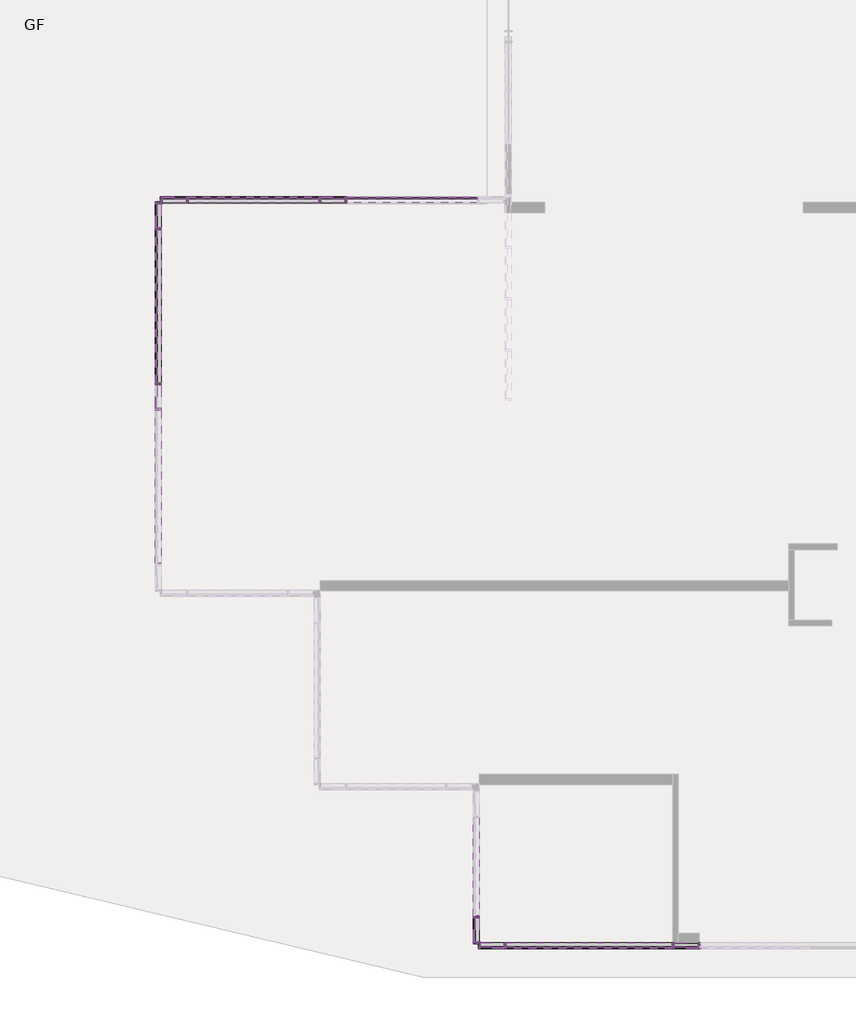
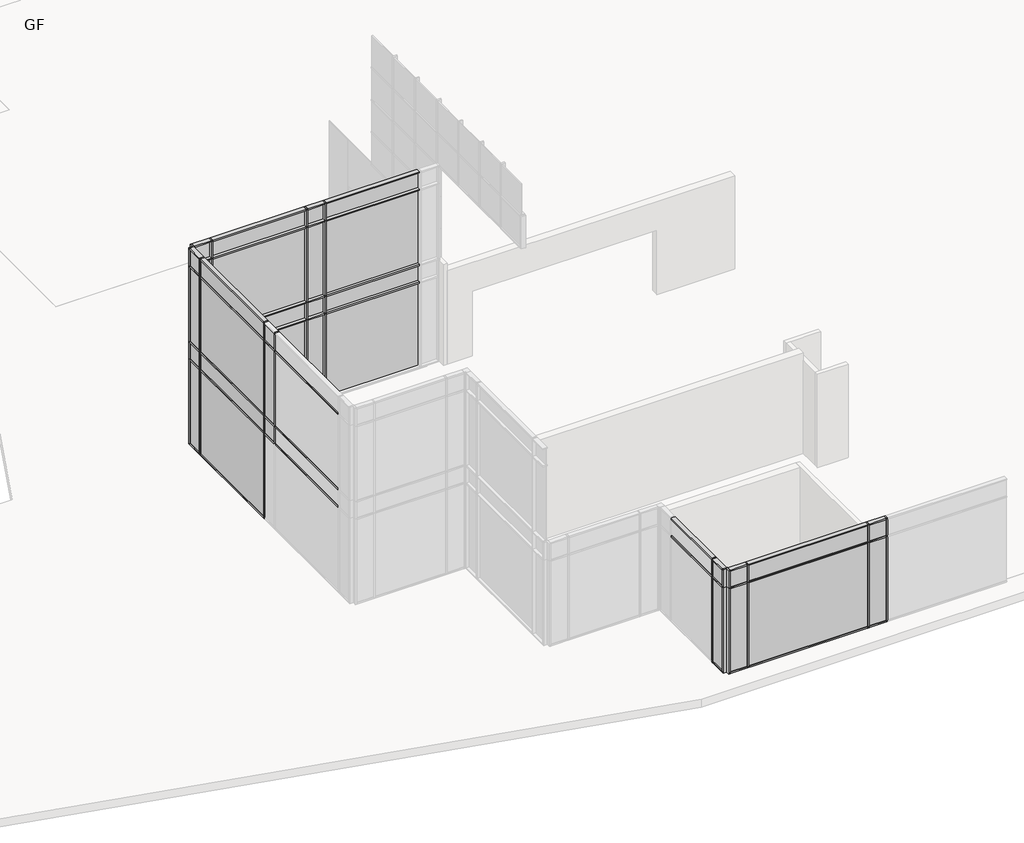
# One storey, part 2 of 23: 86 members, 35 plates.
"""IFC4 building model written with IfcOpenShell, lengths in millimetres."""

from ifc_helpers import new_model, si_unit, origin, place, context, project, spatial, transform, mapped, element, save
from components import rectangular_mullion_50_x_150mm_68b3818a, rectangular_mullion_50_x_150mm_64d38db8, rectangular_mullion_50_x_150mm_b34d1ea9, rectangular_mullion_50_x_150mm_0240cd64, rectangular_mullion_50_x_150mm_e0b7c4f8, rectangular_mullion_50_x_150mm_d11e3bb4, rectangular_mullion_50_x_150mm_7d543e93, rectangular_mullion_50_x_150mm_9e0f1e24, rectangular_mullion_50_x_150mm_4f882940, rectangular_mullion_50_x_150mm_edc7ebc1, rectangular_mullion_50_x_150mm_eae7d4bc, rectangular_mullion_50_x_150mm_8786dd09, rectangular_mullion_50_x_150mm_73a7075e, rectangular_mullion_50_x_150mm_567a4a66, v_corner_mullion_v_mullion_1_f045c5c2, v_corner_mullion_v_mullion_1_1f1fc5c4, v_corner_mullion_v_mullion_1_7bbb4fbd, v_corner_mullion_v_mullion_1_ba732962, system_panel_glazed_24812111, system_panel_glazed_e5239730, system_panel_glazed_6ff5b55b, system_panel_glazed_93ed122c, system_panel_glazed_8999bfa8, system_panel_glazed_2828cf0c, system_panel_glazed_a7232eb8, system_panel_glazed_7da84705, system_panel_glazed_2ee935f9, system_panel_glazed_bcfc8d05, system_panel_glazed_5b8ccad9, system_panel_glazed_a16f1b96, system_panel_glazed_8fdd871a, system_panel_glazed_dc0bbc31

model = new_model("IFC4")

# Units and contexts
model_context = context("Model", 3, world=origin())
ifc_project = project(units=[si_unit("LENGTHUNIT", "METRE", prefix="MILLI")], contexts=[model_context])

# Site, building, storey
site = spatial("IfcSite", under=ifc_project)
building = spatial("IfcBuilding", under=site)
storey = spatial("IfcBuildingStorey", under=building, Name="GF", Elevation=900.0)

# Members
placement = place(None, origin())
rectangular_mullion_50_x_150mm_shape = rectangular_mullion_50_x_150mm_68b3818a(model_context)
element("IfcMember", 1, ObjectType="Rectangular Mullion : 50 x 150mm", at=placement, inside=storey, context=model_context, shape_type="MappedRepresentation", body=[
    mapped(rectangular_mullion_50_x_150mm_shape, transform((-31612.5865899, -25072.6148653, 4075.0), x_axis=(0.0, 0.0, 1.0), y_axis=(-1.0, 0.0, 0.0), z_axis=(0.0, -1.0, 0.0))),
])
element("IfcMember", 2, ObjectType="Rectangular Mullion : 50 x 150mm", at=placement, inside=storey, context=model_context, shape_type="MappedRepresentation", body=[
    mapped(rectangular_mullion_50_x_150mm_shape, transform((-35525.0865899, -6397.6148653, 7525.0), x_axis=(0.0, 0.0, 1.0), y_axis=(0.0, 1.0, 0.0), z_axis=(-1.0, 0.0, 0.0))),
])
element("IfcMember", 3, ObjectType="Rectangular Mullion : 50 x 150mm", at=placement, inside=storey, context=model_context, shape_type="MappedRepresentation", body=[
    mapped(rectangular_mullion_50_x_150mm_shape, transform((-39512.5865899, -6397.6148653, 7525.0), x_axis=(0.0, 0.0, 1.0), y_axis=(0.0, 1.0, 0.0), z_axis=(-1.0, 0.0, 0.0))),
])
element("IfcMember", 4, ObjectType="Rectangular Mullion : 50 x 150mm", at=placement, inside=storey, context=model_context, shape_type="MappedRepresentation", body=[
    mapped(rectangular_mullion_50_x_150mm_shape, transform((-35525.0865899, -6397.6148653, 4075.0), x_axis=(0.0, 0.0, 1.0), y_axis=(0.0, 1.0, 0.0), z_axis=(-1.0, 0.0, 0.0))),
])
element("IfcMember", 5, ObjectType="Rectangular Mullion : 50 x 150mm", at=placement, inside=storey, context=model_context, shape_type="MappedRepresentation", body=[
    mapped(rectangular_mullion_50_x_150mm_shape, transform((-39512.5865899, -6397.6148653, 4075.0), x_axis=(0.0, 0.0, 1.0), y_axis=(0.0, 1.0, 0.0), z_axis=(-1.0, 0.0, 0.0))),
])
element("IfcMember", 6, ObjectType="Rectangular Mullion : 50 x 150mm", at=placement, inside=storey, context=model_context, shape_type="MappedRepresentation", body=[
    mapped(rectangular_mullion_50_x_150mm_shape, transform((-35525.0865899, -6397.6148653, 4725.0), x_axis=(0.0, 0.0, 1.0), y_axis=(0.0, 1.0, 0.0), z_axis=(-1.0, 0.0, 0.0))),
])
element("IfcMember", 7, ObjectType="Rectangular Mullion : 50 x 150mm", at=placement, inside=storey, context=model_context, shape_type="MappedRepresentation", body=[
    mapped(rectangular_mullion_50_x_150mm_shape, transform((-39512.5865899, -6397.6148653, 4725.0), x_axis=(0.0, 0.0, 1.0), y_axis=(0.0, 1.0, 0.0), z_axis=(-1.0, 0.0, 0.0))),
])
element("IfcMember", 8, ObjectType="Rectangular Mullion : 50 x 150mm", at=placement, inside=storey, context=model_context, shape_type="MappedRepresentation", body=[
    mapped(rectangular_mullion_50_x_150mm_shape, transform((-39612.5865899, -11047.6148653, 7525.0), x_axis=(0.0, 0.0, 1.0), y_axis=(1.0, 0.0, 0.0), z_axis=(0.0, 1.0, 0.0))),
])
element("IfcMember", 9, ObjectType="Rectangular Mullion : 50 x 150mm", at=placement, inside=storey, context=model_context, shape_type="MappedRepresentation", body=[
    mapped(rectangular_mullion_50_x_150mm_shape, transform((-39612.5865899, -6497.6148653, 7525.0), x_axis=(0.0, 0.0, 1.0), y_axis=(1.0, 0.0, 0.0), z_axis=(0.0, 1.0, 0.0))),
])
element("IfcMember", 10, ObjectType="Rectangular Mullion : 50 x 150mm", at=placement, inside=storey, context=model_context, shape_type="MappedRepresentation", body=[
    mapped(rectangular_mullion_50_x_150mm_shape, transform((-39612.5865899, -11047.6148653, 4725.0), x_axis=(0.0, 0.0, 1.0), y_axis=(1.0, 0.0, 0.0), z_axis=(0.0, 1.0, 0.0))),
])
element("IfcMember", 11, ObjectType="Rectangular Mullion : 50 x 150mm", at=placement, inside=storey, context=model_context, shape_type="MappedRepresentation", body=[
    mapped(rectangular_mullion_50_x_150mm_shape, transform((-39612.5865899, -6497.6148653, 4725.0), x_axis=(0.0, 0.0, 1.0), y_axis=(1.0, 0.0, 0.0), z_axis=(0.0, 1.0, 0.0))),
])
element("IfcMember", 12, ObjectType="Rectangular Mullion : 50 x 150mm", at=placement, inside=storey, context=model_context, shape_type="MappedRepresentation", body=[
    mapped(rectangular_mullion_50_x_150mm_shape, transform((-39612.5865899, -11047.6148653, 4075.0), x_axis=(0.0, 0.0, 1.0), y_axis=(1.0, 0.0, 0.0), z_axis=(0.0, 1.0, 0.0))),
])
element("IfcMember", 13, ObjectType="Rectangular Mullion : 50 x 150mm", at=placement, inside=storey, context=model_context, shape_type="MappedRepresentation", body=[
    mapped(rectangular_mullion_50_x_150mm_shape, transform((-39612.5865899, -6497.6148653, 4075.0), x_axis=(0.0, 0.0, 1.0), y_axis=(1.0, 0.0, 0.0), z_axis=(0.0, 1.0, 0.0))),
])
element("IfcMember", 14, ObjectType="Rectangular Mullion : 50 x 150mm", at=placement, inside=storey, context=model_context, shape_type="MappedRepresentation", body=[
    mapped(rectangular_mullion_50_x_150mm_shape, transform((-26627.5865899, -25172.6148653, 4075.0), x_axis=(0.0, 0.0, 1.0), y_axis=(0.0, 1.0, 0.0), z_axis=(-1.0, 0.0, 0.0))),
])
element("IfcMember", 15, ObjectType="Rectangular Mullion : 50 x 150mm", at=placement, inside=storey, context=model_context, shape_type="MappedRepresentation", body=[
    mapped(rectangular_mullion_50_x_150mm_shape, transform((-31512.5865899, -25172.6148653, 4075.0), x_axis=(0.0, 0.0, 1.0), y_axis=(0.0, 1.0, 0.0), z_axis=(-1.0, 0.0, 0.0))),
])
rectangular_mullion_50_x_150mm_2_shape = rectangular_mullion_50_x_150mm_64d38db8(model_context)
element("IfcMember", 16, ObjectType="Rectangular Mullion : 50 x 150mm", at=placement, inside=storey, context=model_context, shape_type="MappedRepresentation", body=[
    mapped(rectangular_mullion_50_x_150mm_2_shape, transform((-31512.5865899, -25172.6148653, 4750.0), x_axis=(0.0, 0.0, 1.0), y_axis=(0.0, 1.0, 0.0), z_axis=(-1.0, 0.0, 0.0))),
])
element("IfcMember", 17, ObjectType="Rectangular Mullion : 50 x 150mm", at=placement, inside=storey, context=model_context, shape_type="MappedRepresentation", body=[
    mapped(rectangular_mullion_50_x_150mm_2_shape, transform((-39612.5865899, -6497.6148653, 8200.0), x_axis=(0.0, 0.0, 1.0), y_axis=(1.0, 0.0, 0.0), z_axis=(0.0, 1.0, 0.0))),
])
element("IfcMember", 18, ObjectType="Rectangular Mullion : 50 x 150mm", at=placement, inside=storey, context=model_context, shape_type="MappedRepresentation", body=[
    mapped(rectangular_mullion_50_x_150mm_2_shape, transform((-26627.5865899, -25172.6148653, 4750.0), x_axis=(0.0, 0.0, 1.0), y_axis=(0.0, 1.0, 0.0), z_axis=(-1.0, 0.0, 0.0))),
])
element("IfcMember", 19, ObjectType="Rectangular Mullion : 50 x 150mm", at=placement, inside=storey, context=model_context, shape_type="MappedRepresentation", body=[
    mapped(rectangular_mullion_50_x_150mm_2_shape, transform((-30912.5865899, -25172.6148653, 900.0), x_axis=(0.0, 0.0, -1.0), y_axis=(0.0, 1.0, 0.0), z_axis=(1.0, 0.0, 0.0))),
])
element("IfcMember", 20, ObjectType="Rectangular Mullion : 50 x 150mm", at=placement, inside=storey, context=model_context, shape_type="MappedRepresentation", body=[
    mapped(rectangular_mullion_50_x_150mm_2_shape, transform((-26027.5865899, -25172.6148653, 900.0), x_axis=(0.0, 0.0, -1.0), y_axis=(0.0, 1.0, 0.0), z_axis=(1.0, 0.0, 0.0))),
])
element("IfcMember", 21, ObjectType="Rectangular Mullion : 50 x 150mm", at=placement, inside=storey, context=model_context, shape_type="MappedRepresentation", body=[
    mapped(rectangular_mullion_50_x_150mm_2_shape, transform((-39612.5865899, -7097.6148653, 900.0), x_axis=(0.0, 0.0, -1.0), y_axis=(1.0, 0.0, 0.0), z_axis=(0.0, -1.0, 0.0))),
])
rectangular_mullion_50_x_150mm_3_shape = rectangular_mullion_50_x_150mm_b34d1ea9(model_context)
element("IfcMember", 22, ObjectType="Rectangular Mullion : 50 x 150mm", at=placement, inside=storey, context=model_context, shape_type="MappedRepresentation", body=[
    mapped(rectangular_mullion_50_x_150mm_3_shape, transform((-30862.5865899, -25172.6148653, 4750.0), x_axis=(0.0, 0.0, 1.0), y_axis=(0.0, 1.0, 0.0), z_axis=(-1.0, 0.0, 0.0))),
])
element("IfcMember", 23, ObjectType="Rectangular Mullion : 50 x 150mm", at=placement, inside=storey, context=model_context, shape_type="MappedRepresentation", body=[
    mapped(rectangular_mullion_50_x_150mm_3_shape, transform((-26677.5865899, -25172.6148653, 900.0), x_axis=(0.0, 0.0, -1.0), y_axis=(0.0, 1.0, 0.0), z_axis=(1.0, 0.0, 0.0))),
])
element("IfcMember", 24, ObjectType="Rectangular Mullion : 50 x 150mm", at=placement, inside=storey, context=model_context, shape_type="MappedRepresentation", body=[
    mapped(rectangular_mullion_50_x_150mm_2_shape, transform((-31612.5865899, -25072.6148653, 4750.0), x_axis=(0.0, 0.0, 1.0), y_axis=(-1.0, 0.0, 0.0), z_axis=(0.0, -1.0, 0.0))),
])
element("IfcMember", 25, ObjectType="Rectangular Mullion : 50 x 150mm", at=placement, inside=storey, context=model_context, shape_type="MappedRepresentation", body=[
    mapped(rectangular_mullion_50_x_150mm_2_shape, transform((-39512.5865899, -6397.6148653, 8200.0), x_axis=(0.0, 0.0, 1.0), y_axis=(0.0, 1.0, 0.0), z_axis=(-1.0, 0.0, 0.0))),
])
element("IfcMember", 26, ObjectType="Rectangular Mullion : 50 x 150mm", at=placement, inside=storey, context=model_context, shape_type="MappedRepresentation", body=[
    mapped(rectangular_mullion_50_x_150mm_2_shape, transform((-35525.0865899, -6397.6148653, 8200.0), x_axis=(0.0, 0.0, 1.0), y_axis=(0.0, 1.0, 0.0), z_axis=(-1.0, 0.0, 0.0))),
])
element("IfcMember", 27, ObjectType="Rectangular Mullion : 50 x 150mm", at=placement, inside=storey, context=model_context, shape_type="MappedRepresentation", body=[
    mapped(rectangular_mullion_50_x_150mm_2_shape, transform((-31612.5865899, -24472.6148653, 900.0), x_axis=(0.0, 0.0, -1.0), y_axis=(-1.0, 0.0, 0.0), z_axis=(0.0, 1.0, 0.0))),
])
element("IfcMember", 28, ObjectType="Rectangular Mullion : 50 x 150mm", at=placement, inside=storey, context=model_context, shape_type="MappedRepresentation", body=[
    mapped(rectangular_mullion_50_x_150mm_2_shape, transform((-38912.5865899, -6397.6148653, 900.0), x_axis=(0.0, 0.0, -1.0), y_axis=(0.0, 1.0, 0.0), z_axis=(1.0, 0.0, 0.0))),
])
element("IfcMember", 29, ObjectType="Rectangular Mullion : 50 x 150mm", at=placement, inside=storey, context=model_context, shape_type="MappedRepresentation", body=[
    mapped(rectangular_mullion_50_x_150mm_2_shape, transform((-34925.0865899, -6397.6148653, 900.0), x_axis=(0.0, 0.0, -1.0), y_axis=(0.0, 1.0, 0.0), z_axis=(1.0, 0.0, 0.0))),
])
rectangular_mullion_50_x_150mm_4_shape = rectangular_mullion_50_x_150mm_0240cd64(model_context)
element("IfcMember", 30, ObjectType="Rectangular Mullion : 50 x 150mm", at=placement, inside=storey, context=model_context, shape_type="MappedRepresentation", body=[
    mapped(rectangular_mullion_50_x_150mm_4_shape, transform((-31612.5865899, -24422.6148653, 4750.0), x_axis=(0.0, 0.0, 1.0), y_axis=(-1.0, 0.0, 0.0), z_axis=(0.0, -1.0, 0.0))),
])
rectangular_mullion_50_x_150mm_5_shape = rectangular_mullion_50_x_150mm_e0b7c4f8(model_context)
element("IfcMember", 31, ObjectType="Rectangular Mullion : 50 x 150mm", at=placement, inside=storey, context=model_context, shape_type="MappedRepresentation", body=[
    mapped(rectangular_mullion_50_x_150mm_5_shape, transform((-39612.5865899, -10997.6148653, 900.0), x_axis=(0.0, 0.0, -1.0), y_axis=(1.0, 0.0, 0.0), z_axis=(0.0, -1.0, 0.0))),
])
element("IfcMember", 32, ObjectType="Rectangular Mullion : 50 x 150mm", at=placement, inside=storey, context=model_context, shape_type="MappedRepresentation", body=[
    mapped(rectangular_mullion_50_x_150mm_5_shape, transform((-39612.5865899, -7147.6148653, 8200.0), x_axis=(0.0, 0.0, 1.0), y_axis=(1.0, 0.0, 0.0), z_axis=(0.0, 1.0, 0.0))),
])
rectangular_mullion_50_x_150mm_6_shape = rectangular_mullion_50_x_150mm_d11e3bb4(model_context)
element("IfcMember", 33, ObjectType="Rectangular Mullion : 50 x 150mm", at=placement, inside=storey, context=model_context, shape_type="MappedRepresentation", body=[
    mapped(rectangular_mullion_50_x_150mm_6_shape, transform((-34900.0865899, -6397.6148653, 4725.0), x_axis=(-1.0, 0.0, 0.0), y_axis=(0.0, 1.0, 0.0), z_axis=(0.0, 0.0, -1.0))),
])
element("IfcMember", 34, ObjectType="Rectangular Mullion : 50 x 150mm", at=placement, inside=storey, context=model_context, shape_type="MappedRepresentation", body=[
    mapped(rectangular_mullion_50_x_150mm_6_shape, transform((-35550.0865899, -6397.6148653, 4725.0), x_axis=(-1.0, 0.0, 0.0), y_axis=(0.0, 1.0, 0.0), z_axis=(0.0, 0.0, -1.0))),
])
element("IfcMember", 35, ObjectType="Rectangular Mullion : 50 x 150mm", at=placement, inside=storey, context=model_context, shape_type="MappedRepresentation", body=[
    mapped(rectangular_mullion_50_x_150mm_6_shape, transform((-38887.5865899, -6397.6148653, 4725.0), x_axis=(-1.0, 0.0, 0.0), y_axis=(0.0, 1.0, 0.0), z_axis=(0.0, 0.0, -1.0))),
])
rectangular_mullion_50_x_150mm_7_shape = rectangular_mullion_50_x_150mm_7d543e93(model_context)
element("IfcMember", 36, ObjectType="Rectangular Mullion : 50 x 150mm", at=placement, inside=storey, context=model_context, shape_type="MappedRepresentation", body=[
    mapped(rectangular_mullion_50_x_150mm_7_shape, transform((-34900.0865899, -6397.6148653, 4075.0), x_axis=(-1.0, 0.0, 0.0), y_axis=(0.0, 1.0, 0.0), z_axis=(0.0, 0.0, -1.0))),
])
element("IfcMember", 37, ObjectType="Rectangular Mullion : 50 x 150mm", at=placement, inside=storey, context=model_context, shape_type="MappedRepresentation", body=[
    mapped(rectangular_mullion_50_x_150mm_7_shape, transform((-35550.0865899, -6397.6148653, 4075.0), x_axis=(-1.0, 0.0, 0.0), y_axis=(0.0, 1.0, 0.0), z_axis=(0.0, 0.0, -1.0))),
])
element("IfcMember", 38, ObjectType="Rectangular Mullion : 50 x 150mm", at=placement, inside=storey, context=model_context, shape_type="MappedRepresentation", body=[
    mapped(rectangular_mullion_50_x_150mm_7_shape, transform((-38887.5865899, -6397.6148653, 4075.0), x_axis=(-1.0, 0.0, 0.0), y_axis=(0.0, 1.0, 0.0), z_axis=(0.0, 0.0, -1.0))),
])
rectangular_mullion_50_x_150mm_8_shape = rectangular_mullion_50_x_150mm_9e0f1e24(model_context)
element("IfcMember", 39, ObjectType="Rectangular Mullion : 50 x 150mm", at=placement, inside=storey, context=model_context, shape_type="MappedRepresentation", body=[
    mapped(rectangular_mullion_50_x_150mm_8_shape, transform((-31612.5865899, -24447.6148653, 4075.0), x_axis=(0.0, -1.0, 0.0), y_axis=(-1.0, 0.0, 0.0), z_axis=(0.0, 0.0, -1.0))),
])
element("IfcMember", 40, ObjectType="Rectangular Mullion : 50 x 150mm", at=placement, inside=storey, context=model_context, shape_type="MappedRepresentation", body=[
    mapped(rectangular_mullion_50_x_150mm_8_shape, transform((-34900.0865899, -6397.6148653, 7525.0), x_axis=(-1.0, 0.0, 0.0), y_axis=(0.0, 1.0, 0.0), z_axis=(0.0, 0.0, -1.0))),
])
element("IfcMember", 41, ObjectType="Rectangular Mullion : 50 x 150mm", at=placement, inside=storey, context=model_context, shape_type="MappedRepresentation", body=[
    mapped(rectangular_mullion_50_x_150mm_8_shape, transform((-35550.0865899, -6397.6148653, 7525.0), x_axis=(-1.0, 0.0, 0.0), y_axis=(0.0, 1.0, 0.0), z_axis=(0.0, 0.0, -1.0))),
])
element("IfcMember", 42, ObjectType="Rectangular Mullion : 50 x 150mm", at=placement, inside=storey, context=model_context, shape_type="MappedRepresentation", body=[
    mapped(rectangular_mullion_50_x_150mm_8_shape, transform((-38887.5865899, -6397.6148653, 7525.0), x_axis=(-1.0, 0.0, 0.0), y_axis=(0.0, 1.0, 0.0), z_axis=(0.0, 0.0, -1.0))),
])
rectangular_mullion_50_x_150mm_9_shape = rectangular_mullion_50_x_150mm_4f882940(model_context)
element("IfcMember", 43, ObjectType="Rectangular Mullion : 50 x 150mm", at=placement, inside=storey, context=model_context, shape_type="MappedRepresentation", body=[
    mapped(rectangular_mullion_50_x_150mm_9_shape, transform((-39612.5865899, -11697.6148653, 7525.0), x_axis=(0.0, 0.0, 1.0), y_axis=(1.0, 0.0, 0.0), z_axis=(0.0, 1.0, 0.0))),
])
element("IfcMember", 44, ObjectType="Rectangular Mullion : 50 x 150mm", at=placement, inside=storey, context=model_context, shape_type="MappedRepresentation", body=[
    mapped(rectangular_mullion_50_x_150mm_9_shape, transform((-39612.5865899, -7147.6148653, 7525.0), x_axis=(0.0, 0.0, 1.0), y_axis=(1.0, 0.0, 0.0), z_axis=(0.0, 1.0, 0.0))),
])
element("IfcMember", 45, ObjectType="Rectangular Mullion : 50 x 150mm", at=placement, inside=storey, context=model_context, shape_type="MappedRepresentation", body=[
    mapped(rectangular_mullion_50_x_150mm_9_shape, transform((-39612.5865899, -11697.6148653, 4725.0), x_axis=(0.0, 0.0, 1.0), y_axis=(1.0, 0.0, 0.0), z_axis=(0.0, 1.0, 0.0))),
])
element("IfcMember", 46, ObjectType="Rectangular Mullion : 50 x 150mm", at=placement, inside=storey, context=model_context, shape_type="MappedRepresentation", body=[
    mapped(rectangular_mullion_50_x_150mm_9_shape, transform((-39612.5865899, -7147.6148653, 4725.0), x_axis=(0.0, 0.0, 1.0), y_axis=(1.0, 0.0, 0.0), z_axis=(0.0, 1.0, 0.0))),
])
element("IfcMember", 47, ObjectType="Rectangular Mullion : 50 x 150mm", at=placement, inside=storey, context=model_context, shape_type="MappedRepresentation", body=[
    mapped(rectangular_mullion_50_x_150mm_9_shape, transform((-39612.5865899, -11697.6148653, 4075.0), x_axis=(0.0, 0.0, 1.0), y_axis=(1.0, 0.0, 0.0), z_axis=(0.0, 1.0, 0.0))),
])
element("IfcMember", 48, ObjectType="Rectangular Mullion : 50 x 150mm", at=placement, inside=storey, context=model_context, shape_type="MappedRepresentation", body=[
    mapped(rectangular_mullion_50_x_150mm_9_shape, transform((-39612.5865899, -7147.6148653, 4075.0), x_axis=(0.0, 0.0, 1.0), y_axis=(1.0, 0.0, 0.0), z_axis=(0.0, 1.0, 0.0))),
])
element("IfcMember", 49, ObjectType="Rectangular Mullion : 50 x 150mm", at=placement, inside=storey, context=model_context, shape_type="MappedRepresentation", body=[
    mapped(rectangular_mullion_50_x_150mm_8_shape, transform((-39612.5865899, -11672.6148653, 7525.0), x_axis=(0.0, 1.0, 0.0), y_axis=(1.0, 0.0, 0.0), z_axis=(0.0, 0.0, -1.0))),
])
element("IfcMember", 50, ObjectType="Rectangular Mullion : 50 x 150mm", at=placement, inside=storey, context=model_context, shape_type="MappedRepresentation", body=[
    mapped(rectangular_mullion_50_x_150mm_8_shape, transform((-39612.5865899, -11022.6148653, 7525.0), x_axis=(0.0, 1.0, 0.0), y_axis=(1.0, 0.0, 0.0), z_axis=(0.0, 0.0, -1.0))),
])
element("IfcMember", 51, ObjectType="Rectangular Mullion : 50 x 150mm", at=placement, inside=storey, context=model_context, shape_type="MappedRepresentation", body=[
    mapped(rectangular_mullion_50_x_150mm_8_shape, transform((-39612.5865899, -7122.6148653, 7525.0), x_axis=(0.0, 1.0, 0.0), y_axis=(1.0, 0.0, 0.0), z_axis=(0.0, 0.0, -1.0))),
])
element("IfcMember", 52, ObjectType="Rectangular Mullion : 50 x 150mm", at=placement, inside=storey, context=model_context, shape_type="MappedRepresentation", body=[
    mapped(rectangular_mullion_50_x_150mm_8_shape, transform((-26002.5865899, -25172.6148653, 4075.0), x_axis=(-1.0, 0.0, 0.0), y_axis=(0.0, 1.0, 0.0), z_axis=(0.0, 0.0, -1.0))),
])
element("IfcMember", 53, ObjectType="Rectangular Mullion : 50 x 150mm", at=placement, inside=storey, context=model_context, shape_type="MappedRepresentation", body=[
    mapped(rectangular_mullion_50_x_150mm_8_shape, transform((-26652.5865899, -25172.6148653, 4075.0), x_axis=(-1.0, 0.0, 0.0), y_axis=(0.0, 1.0, 0.0), z_axis=(0.0, 0.0, -1.0))),
])
element("IfcMember", 54, ObjectType="Rectangular Mullion : 50 x 150mm", at=placement, inside=storey, context=model_context, shape_type="MappedRepresentation", body=[
    mapped(rectangular_mullion_50_x_150mm_8_shape, transform((-30887.5865899, -25172.6148653, 4075.0), x_axis=(-1.0, 0.0, 0.0), y_axis=(0.0, 1.0, 0.0), z_axis=(0.0, 0.0, -1.0))),
])
element("IfcMember", 55, ObjectType="Rectangular Mullion : 50 x 150mm", at=placement, inside=storey, context=model_context, shape_type="MappedRepresentation", body=[
    mapped(rectangular_mullion_50_x_150mm_7_shape, transform((-39612.5865899, -11672.6148653, 4075.0), x_axis=(0.0, 1.0, 0.0), y_axis=(1.0, 0.0, 0.0), z_axis=(0.0, 0.0, -1.0))),
])
element("IfcMember", 56, ObjectType="Rectangular Mullion : 50 x 150mm", at=placement, inside=storey, context=model_context, shape_type="MappedRepresentation", body=[
    mapped(rectangular_mullion_50_x_150mm_7_shape, transform((-39612.5865899, -11022.6148653, 4075.0), x_axis=(0.0, 1.0, 0.0), y_axis=(1.0, 0.0, 0.0), z_axis=(0.0, 0.0, -1.0))),
])
element("IfcMember", 57, ObjectType="Rectangular Mullion : 50 x 150mm", at=placement, inside=storey, context=model_context, shape_type="MappedRepresentation", body=[
    mapped(rectangular_mullion_50_x_150mm_7_shape, transform((-39612.5865899, -7122.6148653, 4075.0), x_axis=(0.0, 1.0, 0.0), y_axis=(1.0, 0.0, 0.0), z_axis=(0.0, 0.0, -1.0))),
])
rectangular_mullion_50_x_150mm_10_shape = rectangular_mullion_50_x_150mm_edc7ebc1(model_context)
element("IfcMember", 58, ObjectType="Rectangular Mullion : 50 x 150mm", at=placement, inside=storey, context=model_context, shape_type="MappedRepresentation", body=[
    mapped(rectangular_mullion_50_x_150mm_10_shape, transform((-31612.5865899, -24422.6148653, 4075.0), x_axis=(0.0, 0.0, 1.0), y_axis=(-1.0, 0.0, 0.0), z_axis=(0.0, -1.0, 0.0))),
])
element("IfcMember", 59, ObjectType="Rectangular Mullion : 50 x 150mm", at=placement, inside=storey, context=model_context, shape_type="MappedRepresentation", body=[
    mapped(rectangular_mullion_50_x_150mm_6_shape, transform((-39612.5865899, -11672.6148653, 4725.0), x_axis=(0.0, 1.0, 0.0), y_axis=(1.0, 0.0, 0.0), z_axis=(0.0, 0.0, -1.0))),
])
element("IfcMember", 60, ObjectType="Rectangular Mullion : 50 x 150mm", at=placement, inside=storey, context=model_context, shape_type="MappedRepresentation", body=[
    mapped(rectangular_mullion_50_x_150mm_6_shape, transform((-39612.5865899, -11022.6148653, 4725.0), x_axis=(0.0, 1.0, 0.0), y_axis=(1.0, 0.0, 0.0), z_axis=(0.0, 0.0, -1.0))),
])
element("IfcMember", 61, ObjectType="Rectangular Mullion : 50 x 150mm", at=placement, inside=storey, context=model_context, shape_type="MappedRepresentation", body=[
    mapped(rectangular_mullion_50_x_150mm_6_shape, transform((-39612.5865899, -7122.6148653, 4725.0), x_axis=(0.0, 1.0, 0.0), y_axis=(1.0, 0.0, 0.0), z_axis=(0.0, 0.0, -1.0))),
])
rectangular_mullion_50_x_150mm_11_shape = rectangular_mullion_50_x_150mm_eae7d4bc(model_context)
element("IfcMember", 62, ObjectType="Rectangular Mullion : 50 x 150mm", at=placement, inside=storey, context=model_context, shape_type="MappedRepresentation", body=[
    mapped(rectangular_mullion_50_x_150mm_11_shape, transform((-30887.5865899, -25172.6148653, 900.0), x_axis=(-1.0, 0.0, 0.0), y_axis=(0.0, 1.0, 0.0), z_axis=(0.0, 0.0, -1.0))),
])
element("IfcMember", 63, ObjectType="Rectangular Mullion : 50 x 150mm", at=placement, inside=storey, context=model_context, shape_type="MappedRepresentation", body=[
    mapped(rectangular_mullion_50_x_150mm_11_shape, transform((-26652.5865899, -25172.6148653, 900.0), x_axis=(-1.0, 0.0, 0.0), y_axis=(0.0, 1.0, 0.0), z_axis=(0.0, 0.0, -1.0))),
])
element("IfcMember", 64, ObjectType="Rectangular Mullion : 50 x 150mm", at=placement, inside=storey, context=model_context, shape_type="MappedRepresentation", body=[
    mapped(rectangular_mullion_50_x_150mm_11_shape, transform((-26002.5865899, -25172.6148653, 900.0), x_axis=(-1.0, 0.0, 0.0), y_axis=(0.0, 1.0, 0.0), z_axis=(0.0, 0.0, -1.0))),
])
element("IfcMember", 65, ObjectType="Rectangular Mullion : 50 x 150mm", at=placement, inside=storey, context=model_context, shape_type="MappedRepresentation", body=[
    mapped(rectangular_mullion_50_x_150mm_11_shape, transform((-39612.5865899, -7122.6148653, 900.0), x_axis=(0.0, 1.0, 0.0), y_axis=(1.0, 0.0, 0.0), z_axis=(0.0, 0.0, -1.0))),
])
element("IfcMember", 66, ObjectType="Rectangular Mullion : 50 x 150mm", at=placement, inside=storey, context=model_context, shape_type="MappedRepresentation", body=[
    mapped(rectangular_mullion_50_x_150mm_11_shape, transform((-39612.5865899, -11022.6148653, 900.0), x_axis=(0.0, 1.0, 0.0), y_axis=(1.0, 0.0, 0.0), z_axis=(0.0, 0.0, -1.0))),
])
element("IfcMember", 67, ObjectType="Rectangular Mullion : 50 x 150mm", at=placement, inside=storey, context=model_context, shape_type="MappedRepresentation", body=[
    mapped(rectangular_mullion_50_x_150mm_11_shape, transform((-31612.5865899, -24447.6148653, 900.0), x_axis=(0.0, -1.0, 0.0), y_axis=(-1.0, 0.0, 0.0), z_axis=(0.0, 0.0, -1.0))),
])
element("IfcMember", 68, ObjectType="Rectangular Mullion : 50 x 150mm", at=placement, inside=storey, context=model_context, shape_type="MappedRepresentation", body=[
    mapped(rectangular_mullion_50_x_150mm_11_shape, transform((-38887.5865899, -6397.6148653, 900.0), x_axis=(-1.0, 0.0, 0.0), y_axis=(0.0, 1.0, 0.0), z_axis=(0.0, 0.0, -1.0))),
])
element("IfcMember", 69, ObjectType="Rectangular Mullion : 50 x 150mm", at=placement, inside=storey, context=model_context, shape_type="MappedRepresentation", body=[
    mapped(rectangular_mullion_50_x_150mm_11_shape, transform((-35550.0865899, -6397.6148653, 900.0), x_axis=(-1.0, 0.0, 0.0), y_axis=(0.0, 1.0, 0.0), z_axis=(0.0, 0.0, -1.0))),
])
element("IfcMember", 70, ObjectType="Rectangular Mullion : 50 x 150mm", at=placement, inside=storey, context=model_context, shape_type="MappedRepresentation", body=[
    mapped(rectangular_mullion_50_x_150mm_11_shape, transform((-34900.0865899, -6397.6148653, 900.0), x_axis=(-1.0, 0.0, 0.0), y_axis=(0.0, 1.0, 0.0), z_axis=(0.0, 0.0, -1.0))),
])
rectangular_mullion_50_x_150mm_12_shape = rectangular_mullion_50_x_150mm_8786dd09(model_context)
element("IfcMember", 71, ObjectType="Rectangular Mullion : 50 x 150mm", at=placement, inside=storey, context=model_context, shape_type="MappedRepresentation", body=[
    mapped(rectangular_mullion_50_x_150mm_12_shape, transform((-30862.5865899, -25172.6148653, 4075.0), x_axis=(0.0, 0.0, 1.0), y_axis=(0.0, 1.0, 0.0), z_axis=(-1.0, 0.0, 0.0))),
])
rectangular_mullion_50_x_150mm_13_shape = rectangular_mullion_50_x_150mm_73a7075e(model_context)
element("IfcMember", 72, ObjectType="Rectangular Mullion : 50 x 150mm", at=placement, inside=storey, context=model_context, shape_type="MappedRepresentation", body=[
    mapped(rectangular_mullion_50_x_150mm_13_shape, transform((-38862.5865899, -6397.6148653, 8200.0), x_axis=(0.0, 0.0, 1.0), y_axis=(0.0, 1.0, 0.0), z_axis=(-1.0, 0.0, 0.0))),
])
element("IfcMember", 73, ObjectType="Rectangular Mullion : 50 x 150mm", at=placement, inside=storey, context=model_context, shape_type="MappedRepresentation", body=[
    mapped(rectangular_mullion_50_x_150mm_13_shape, transform((-34875.0865899, -6397.6148653, 8200.0), x_axis=(0.0, 0.0, 1.0), y_axis=(0.0, 1.0, 0.0), z_axis=(-1.0, 0.0, 0.0))),
])
element("IfcMember", 74, ObjectType="Rectangular Mullion : 50 x 150mm", at=placement, inside=storey, context=model_context, shape_type="MappedRepresentation", body=[
    mapped(rectangular_mullion_50_x_150mm_13_shape, transform((-35575.0865899, -6397.6148653, 900.0), x_axis=(0.0, 0.0, -1.0), y_axis=(0.0, 1.0, 0.0), z_axis=(1.0, 0.0, 0.0))),
])
rectangular_mullion_50_x_150mm_14_shape = rectangular_mullion_50_x_150mm_567a4a66(model_context)
element("IfcMember", 75, ObjectType="Rectangular Mullion : 50 x 150mm", at=placement, inside=storey, context=model_context, shape_type="MappedRepresentation", body=[
    mapped(rectangular_mullion_50_x_150mm_14_shape, transform((-34875.0865899, -6397.6148653, 7525.0), x_axis=(0.0, 0.0, 1.0), y_axis=(0.0, 1.0, 0.0), z_axis=(-1.0, 0.0, 0.0))),
])
element("IfcMember", 76, ObjectType="Rectangular Mullion : 50 x 150mm", at=placement, inside=storey, context=model_context, shape_type="MappedRepresentation", body=[
    mapped(rectangular_mullion_50_x_150mm_14_shape, transform((-38862.5865899, -6397.6148653, 7525.0), x_axis=(0.0, 0.0, 1.0), y_axis=(0.0, 1.0, 0.0), z_axis=(-1.0, 0.0, 0.0))),
])
element("IfcMember", 77, ObjectType="Rectangular Mullion : 50 x 150mm", at=placement, inside=storey, context=model_context, shape_type="MappedRepresentation", body=[
    mapped(rectangular_mullion_50_x_150mm_14_shape, transform((-34875.0865899, -6397.6148653, 4075.0), x_axis=(0.0, 0.0, 1.0), y_axis=(0.0, 1.0, 0.0), z_axis=(-1.0, 0.0, 0.0))),
])
element("IfcMember", 78, ObjectType="Rectangular Mullion : 50 x 150mm", at=placement, inside=storey, context=model_context, shape_type="MappedRepresentation", body=[
    mapped(rectangular_mullion_50_x_150mm_14_shape, transform((-38862.5865899, -6397.6148653, 4075.0), x_axis=(0.0, 0.0, 1.0), y_axis=(0.0, 1.0, 0.0), z_axis=(-1.0, 0.0, 0.0))),
])
element("IfcMember", 79, ObjectType="Rectangular Mullion : 50 x 150mm", at=placement, inside=storey, context=model_context, shape_type="MappedRepresentation", body=[
    mapped(rectangular_mullion_50_x_150mm_14_shape, transform((-34875.0865899, -6397.6148653, 4725.0), x_axis=(0.0, 0.0, 1.0), y_axis=(0.0, 1.0, 0.0), z_axis=(-1.0, 0.0, 0.0))),
])
element("IfcMember", 80, ObjectType="Rectangular Mullion : 50 x 150mm", at=placement, inside=storey, context=model_context, shape_type="MappedRepresentation", body=[
    mapped(rectangular_mullion_50_x_150mm_14_shape, transform((-38862.5865899, -6397.6148653, 4725.0), x_axis=(0.0, 0.0, 1.0), y_axis=(0.0, 1.0, 0.0), z_axis=(-1.0, 0.0, 0.0))),
])
v_corner_mullion_v_mullion_1_shape = v_corner_mullion_v_mullion_1_f045c5c2(model_context)
element("IfcMember", 81, ObjectType="V Corner Mullion : V Mullion 1", at=placement, inside=storey, context=model_context, shape_type="MappedRepresentation", body=[
    mapped(v_corner_mullion_v_mullion_1_shape, transform((-39612.5865899, -6397.6148653, 7525.0), x_axis=(0.0, 1.0, 0.0), y_axis=(1.0, 0.0, 0.0), z_axis=(0.0, 0.0, -1.0))),
])
element("IfcMember", 82, ObjectType="V Corner Mullion : V Mullion 1", at=placement, inside=storey, context=model_context, shape_type="MappedRepresentation", body=[
    mapped(v_corner_mullion_v_mullion_1_shape, transform((-31612.5865899, -25172.6148653, 4075.0), x_axis=(-1.0, 0.0, 0.0), y_axis=(0.0, 1.0, 0.0), z_axis=(0.0, 0.0, -1.0))),
])
v_corner_mullion_v_mullion_1_2_shape = v_corner_mullion_v_mullion_1_1f1fc5c4(model_context)
element("IfcMember", 83, ObjectType="V Corner Mullion : V Mullion 1", at=placement, inside=storey, context=model_context, shape_type="MappedRepresentation", body=[
    mapped(v_corner_mullion_v_mullion_1_2_shape, transform((-39612.5865899, -6397.6148653, 4725.0), x_axis=(0.0, 1.0, 0.0), y_axis=(1.0, 0.0, 0.0), z_axis=(0.0, 0.0, -1.0))),
])
v_corner_mullion_v_mullion_1_3_shape = v_corner_mullion_v_mullion_1_7bbb4fbd(model_context)
element("IfcMember", 84, ObjectType="V Corner Mullion : V Mullion 1", at=placement, inside=storey, context=model_context, shape_type="MappedRepresentation", body=[
    mapped(v_corner_mullion_v_mullion_1_3_shape, transform((-39612.5865899, -6397.6148653, 900.0), x_axis=(0.0, 1.0, 0.0), y_axis=(1.0, 0.0, 0.0), z_axis=(0.0, 0.0, -1.0))),
])
v_corner_mullion_v_mullion_1_4_shape = v_corner_mullion_v_mullion_1_ba732962(model_context)
element("IfcMember", 85, ObjectType="V Corner Mullion : V Mullion 1", at=placement, inside=storey, context=model_context, shape_type="MappedRepresentation", body=[
    mapped(v_corner_mullion_v_mullion_1_4_shape, transform((-39612.5865899, -6397.6148653, 4075.0), x_axis=(0.0, 1.0, 0.0), y_axis=(1.0, 0.0, 0.0), z_axis=(0.0, 0.0, -1.0))),
])
element("IfcMember", 86, ObjectType="V Corner Mullion : V Mullion 1", at=placement, inside=storey, context=model_context, shape_type="MappedRepresentation", body=[
    mapped(v_corner_mullion_v_mullion_1_3_shape, transform((-31612.5865899, -25172.6148653, 900.0), x_axis=(-1.0, 0.0, 0.0), y_axis=(0.0, 1.0, 0.0), z_axis=(0.0, 0.0, -1.0))),
])

# Plates
system_panel_glazed_shape = system_panel_glazed_24812111(model_context)
element("IfcPlate", 87, ObjectType="System Panel : Glazed", at=placement, inside=storey, context=model_context, shape_type="MappedRepresentation", body=[
    mapped(system_panel_glazed_shape, transform((-39612.5865899, -11347.6148653, 7550.0), x_axis=(0.0, 1.0, 0.0), y_axis=(-1.0, 0.0, 0.0), z_axis=(0.0, 0.0, 1.0))),
])
element("IfcPlate", 88, ObjectType="System Panel : Glazed", at=placement, inside=storey, context=model_context, shape_type="MappedRepresentation", body=[
    mapped(system_panel_glazed_shape, transform((-39612.5865899, -6797.6148653, 7550.0), x_axis=(0.0, 1.0, 0.0), y_axis=(-1.0, 0.0, 0.0), z_axis=(0.0, 0.0, 1.0))),
])
element("IfcPlate", 89, ObjectType="System Panel : Glazed", at=placement, inside=storey, context=model_context, shape_type="MappedRepresentation", body=[
    mapped(system_panel_glazed_shape, transform((-39612.5865899, -11347.6148653, 4100.0), x_axis=(0.0, 1.0, 0.0), y_axis=(-1.0, 0.0, 0.0), z_axis=(0.0, 0.0, 1.0))),
])
element("IfcPlate", 90, ObjectType="System Panel : Glazed", at=placement, inside=storey, context=model_context, shape_type="MappedRepresentation", body=[
    mapped(system_panel_glazed_shape, transform((-39612.5865899, -6797.6148653, 4100.0), x_axis=(0.0, 1.0, 0.0), y_axis=(-1.0, 0.0, 0.0), z_axis=(0.0, 0.0, 1.0))),
])
element("IfcPlate", 91, ObjectType="System Panel : Glazed", at=placement, inside=storey, context=model_context, shape_type="MappedRepresentation", body=[
    mapped(system_panel_glazed_shape, transform((-26327.5865899, -25172.6148653, 4100.0), x_axis=(-1.0, 0.0, 0.0), y_axis=(0.0, -1.0, 0.0), z_axis=(0.0, 0.0, 1.0))),
])
element("IfcPlate", 92, ObjectType="System Panel : Glazed", at=placement, inside=storey, context=model_context, shape_type="MappedRepresentation", body=[
    mapped(system_panel_glazed_shape, transform((-31212.5865899, -25172.6148653, 4100.0), x_axis=(-1.0, 0.0, 0.0), y_axis=(0.0, -1.0, 0.0), z_axis=(0.0, 0.0, 1.0))),
])
system_panel_glazed_2_shape = system_panel_glazed_e5239730(model_context)
element("IfcPlate", 93, ObjectType="System Panel : Glazed", at=placement, inside=storey, context=model_context, shape_type="MappedRepresentation", body=[
    mapped(system_panel_glazed_2_shape, transform((-39612.5865899, -11347.6148653, 4750.0), x_axis=(0.0, 1.0, 0.0), y_axis=(-1.0, 0.0, 0.0), z_axis=(0.0, 0.0, 1.0))),
])
element("IfcPlate", 94, ObjectType="System Panel : Glazed", at=placement, inside=storey, context=model_context, shape_type="MappedRepresentation", body=[
    mapped(system_panel_glazed_2_shape, transform((-39612.5865899, -6797.6148653, 4750.0), x_axis=(0.0, 1.0, 0.0), y_axis=(-1.0, 0.0, 0.0), z_axis=(0.0, 0.0, 1.0))),
])
system_panel_glazed_3_shape = system_panel_glazed_6ff5b55b(model_context)
element("IfcPlate", 95, ObjectType="System Panel : Glazed", at=placement, inside=storey, context=model_context, shape_type="MappedRepresentation", body=[
    mapped(system_panel_glazed_3_shape, transform((-35225.0865899, -6397.6148653, 4750.0), x_axis=(-1.0, 0.0, 0.0), y_axis=(0.0, -1.0, 0.0), z_axis=(0.0, 0.0, 1.0))),
])
element("IfcPlate", 96, ObjectType="System Panel : Glazed", at=placement, inside=storey, context=model_context, shape_type="MappedRepresentation", body=[
    mapped(system_panel_glazed_3_shape, transform((-39212.5865899, -6397.6148653, 4750.0), x_axis=(-1.0, 0.0, 0.0), y_axis=(0.0, -1.0, 0.0), z_axis=(0.0, 0.0, 1.0))),
])
system_panel_glazed_4_shape = system_panel_glazed_93ed122c(model_context)
element("IfcPlate", 97, ObjectType="System Panel : Glazed", at=placement, inside=storey, context=model_context, shape_type="MappedRepresentation", body=[
    mapped(system_panel_glazed_4_shape, transform((-31612.5865899, -24772.6148653, 4100.0), x_axis=(0.0, -1.0, 0.0), y_axis=(1.0, 0.0, 0.0), z_axis=(0.0, 0.0, 1.0))),
])
element("IfcPlate", 98, ObjectType="System Panel : Glazed", at=placement, inside=storey, context=model_context, shape_type="MappedRepresentation", body=[
    mapped(system_panel_glazed_4_shape, transform((-35225.0865899, -6397.6148653, 7550.0), x_axis=(-1.0, 0.0, 0.0), y_axis=(0.0, -1.0, 0.0), z_axis=(0.0, 0.0, 1.0))),
])
element("IfcPlate", 99, ObjectType="System Panel : Glazed", at=placement, inside=storey, context=model_context, shape_type="MappedRepresentation", body=[
    mapped(system_panel_glazed_4_shape, transform((-39212.5865899, -6397.6148653, 7550.0), x_axis=(-1.0, 0.0, 0.0), y_axis=(0.0, -1.0, 0.0), z_axis=(0.0, 0.0, 1.0))),
])
element("IfcPlate", 100, ObjectType="System Panel : Glazed", at=placement, inside=storey, context=model_context, shape_type="MappedRepresentation", body=[
    mapped(system_panel_glazed_4_shape, transform((-35225.0865899, -6397.6148653, 4100.0), x_axis=(-1.0, 0.0, 0.0), y_axis=(0.0, -1.0, 0.0), z_axis=(0.0, 0.0, 1.0))),
])
element("IfcPlate", 101, ObjectType="System Panel : Glazed", at=placement, inside=storey, context=model_context, shape_type="MappedRepresentation", body=[
    mapped(system_panel_glazed_4_shape, transform((-39212.5865899, -6397.6148653, 4100.0), x_axis=(-1.0, 0.0, 0.0), y_axis=(0.0, -1.0, 0.0), z_axis=(0.0, 0.0, 1.0))),
])
system_panel_glazed_5_shape = system_panel_glazed_8999bfa8(model_context)
element("IfcPlate", 102, ObjectType="System Panel : Glazed", at=placement, inside=storey, context=model_context, shape_type="MappedRepresentation", body=[
    mapped(system_panel_glazed_5_shape, transform((-39612.5865899, -9072.6148653, 7550.0), x_axis=(0.0, 1.0, 0.0), y_axis=(-1.0, 0.0, 0.0), z_axis=(0.0, 0.0, 1.0))),
])
element("IfcPlate", 103, ObjectType="System Panel : Glazed", at=placement, inside=storey, context=model_context, shape_type="MappedRepresentation", body=[
    mapped(system_panel_glazed_5_shape, transform((-39612.5865899, -9072.6148653, 4100.0), x_axis=(0.0, 1.0, 0.0), y_axis=(-1.0, 0.0, 0.0), z_axis=(0.0, 0.0, 1.0))),
])
system_panel_glazed_6_shape = system_panel_glazed_2828cf0c(model_context)
element("IfcPlate", 104, ObjectType="System Panel : Glazed", at=placement, inside=storey, context=model_context, shape_type="MappedRepresentation", body=[
    mapped(system_panel_glazed_6_shape, transform((-39612.5865899, -9072.6148653, 4750.0), x_axis=(0.0, 1.0, 0.0), y_axis=(-1.0, 0.0, 0.0), z_axis=(0.0, 0.0, 1.0))),
])
system_panel_glazed_7_shape = system_panel_glazed_a7232eb8(model_context)
element("IfcPlate", 105, ObjectType="System Panel : Glazed", at=placement, inside=storey, context=model_context, shape_type="MappedRepresentation", body=[
    mapped(system_panel_glazed_7_shape, transform((-31212.5865899, -25172.6148653, 950.0), x_axis=(-1.0, 0.0, 0.0), y_axis=(0.0, -1.0, 0.0), z_axis=(0.0, 0.0, 1.0))),
])
element("IfcPlate", 106, ObjectType="System Panel : Glazed", at=placement, inside=storey, context=model_context, shape_type="MappedRepresentation", body=[
    mapped(system_panel_glazed_7_shape, transform((-26327.5865899, -25172.6148653, 950.0), x_axis=(-1.0, 0.0, 0.0), y_axis=(0.0, -1.0, 0.0), z_axis=(0.0, 0.0, 1.0))),
])
element("IfcPlate", 107, ObjectType="System Panel : Glazed", at=placement, inside=storey, context=model_context, shape_type="MappedRepresentation", body=[
    mapped(system_panel_glazed_7_shape, transform((-39612.5865899, -6797.6148653, 950.0), x_axis=(0.0, 1.0, 0.0), y_axis=(-1.0, 0.0, 0.0), z_axis=(0.0, 0.0, 1.0))),
])
system_panel_glazed_8_shape = system_panel_glazed_7da84705(model_context)
element("IfcPlate", 108, ObjectType="System Panel : Glazed", at=placement, inside=storey, context=model_context, shape_type="MappedRepresentation", body=[
    mapped(system_panel_glazed_8_shape, transform((-39612.5865899, -9072.6148653, 950.0), x_axis=(0.0, 1.0, 0.0), y_axis=(-1.0, 0.0, 0.0), z_axis=(0.0, 0.0, 1.0))),
])
system_panel_glazed_9_shape = system_panel_glazed_2ee935f9(model_context)
element("IfcPlate", 109, ObjectType="System Panel : Glazed", at=placement, inside=storey, context=model_context, shape_type="MappedRepresentation", body=[
    mapped(system_panel_glazed_9_shape, transform((-31612.5865899, -24772.6148653, 950.0), x_axis=(0.0, -1.0, 0.0), y_axis=(1.0, 0.0, 0.0), z_axis=(0.0, 0.0, 1.0))),
])
element("IfcPlate", 110, ObjectType="System Panel : Glazed", at=placement, inside=storey, context=model_context, shape_type="MappedRepresentation", body=[
    mapped(system_panel_glazed_9_shape, transform((-39212.5865899, -6397.6148653, 950.0), x_axis=(-1.0, 0.0, 0.0), y_axis=(0.0, -1.0, 0.0), z_axis=(0.0, 0.0, 1.0))),
])
element("IfcPlate", 111, ObjectType="System Panel : Glazed", at=placement, inside=storey, context=model_context, shape_type="MappedRepresentation", body=[
    mapped(system_panel_glazed_9_shape, transform((-35225.0865899, -6397.6148653, 950.0), x_axis=(-1.0, 0.0, 0.0), y_axis=(0.0, -1.0, 0.0), z_axis=(0.0, 0.0, 1.0))),
])
system_panel_glazed_10_shape = system_panel_glazed_bcfc8d05(model_context)
element("IfcPlate", 112, ObjectType="System Panel : Glazed", at=placement, inside=storey, context=model_context, shape_type="MappedRepresentation", body=[
    mapped(system_panel_glazed_10_shape, transform((-28770.0865899, -25172.6148653, 950.0), x_axis=(-1.0, 0.0, 0.0), y_axis=(0.0, -1.0, 0.0), z_axis=(0.0, 0.0, 1.0))),
])
system_panel_glazed_11_shape = system_panel_glazed_5b8ccad9(model_context)
element("IfcPlate", 113, ObjectType="System Panel : Glazed", at=placement, inside=storey, context=model_context, shape_type="MappedRepresentation", body=[
    mapped(system_panel_glazed_11_shape, transform((-28770.0865899, -25172.6148653, 4100.0), x_axis=(-1.0, 0.0, 0.0), y_axis=(0.0, -1.0, 0.0), z_axis=(0.0, 0.0, 1.0))),
])
system_panel_glazed_12_shape = system_panel_glazed_a16f1b96(model_context)
element("IfcPlate", 114, ObjectType="System Panel : Glazed", at=placement, inside=storey, context=model_context, shape_type="MappedRepresentation", body=[
    mapped(system_panel_glazed_12_shape, transform((-33231.3365899, -6397.6148653, 950.0), x_axis=(-1.0, 0.0, 0.0), y_axis=(0.0, -1.0, 0.0), z_axis=(0.0, 0.0, 1.0))),
])
element("IfcPlate", 115, ObjectType="System Panel : Glazed", at=placement, inside=storey, context=model_context, shape_type="MappedRepresentation", body=[
    mapped(system_panel_glazed_12_shape, transform((-37218.8365899, -6397.6148653, 950.0), x_axis=(-1.0, 0.0, 0.0), y_axis=(0.0, -1.0, 0.0), z_axis=(0.0, 0.0, 1.0))),
])
system_panel_glazed_13_shape = system_panel_glazed_8fdd871a(model_context)
element("IfcPlate", 116, ObjectType="System Panel : Glazed", at=placement, inside=storey, context=model_context, shape_type="MappedRepresentation", body=[
    mapped(system_panel_glazed_13_shape, transform((-33231.3365899, -6397.6148653, 7550.0), x_axis=(-1.0, 0.0, 0.0), y_axis=(0.0, -1.0, 0.0), z_axis=(0.0, 0.0, 1.0))),
])
element("IfcPlate", 117, ObjectType="System Panel : Glazed", at=placement, inside=storey, context=model_context, shape_type="MappedRepresentation", body=[
    mapped(system_panel_glazed_13_shape, transform((-37218.8365899, -6397.6148653, 7550.0), x_axis=(-1.0, 0.0, 0.0), y_axis=(0.0, -1.0, 0.0), z_axis=(0.0, 0.0, 1.0))),
])
element("IfcPlate", 118, ObjectType="System Panel : Glazed", at=placement, inside=storey, context=model_context, shape_type="MappedRepresentation", body=[
    mapped(system_panel_glazed_13_shape, transform((-33231.3365899, -6397.6148653, 4100.0), x_axis=(-1.0, 0.0, 0.0), y_axis=(0.0, -1.0, 0.0), z_axis=(0.0, 0.0, 1.0))),
])
element("IfcPlate", 119, ObjectType="System Panel : Glazed", at=placement, inside=storey, context=model_context, shape_type="MappedRepresentation", body=[
    mapped(system_panel_glazed_13_shape, transform((-37218.8365899, -6397.6148653, 4100.0), x_axis=(-1.0, 0.0, 0.0), y_axis=(0.0, -1.0, 0.0), z_axis=(0.0, 0.0, 1.0))),
])
system_panel_glazed_14_shape = system_panel_glazed_dc0bbc31(model_context)
element("IfcPlate", 120, ObjectType="System Panel : Glazed", at=placement, inside=storey, context=model_context, shape_type="MappedRepresentation", body=[
    mapped(system_panel_glazed_14_shape, transform((-33231.3365899, -6397.6148653, 4750.0), x_axis=(-1.0, 0.0, 0.0), y_axis=(0.0, -1.0, 0.0), z_axis=(0.0, 0.0, 1.0))),
])
element("IfcPlate", 121, ObjectType="System Panel : Glazed", at=placement, inside=storey, context=model_context, shape_type="MappedRepresentation", body=[
    mapped(system_panel_glazed_14_shape, transform((-37218.8365899, -6397.6148653, 4750.0), x_axis=(-1.0, 0.0, 0.0), y_axis=(0.0, -1.0, 0.0), z_axis=(0.0, 0.0, 1.0))),
])

save(model, "model.ifc")
